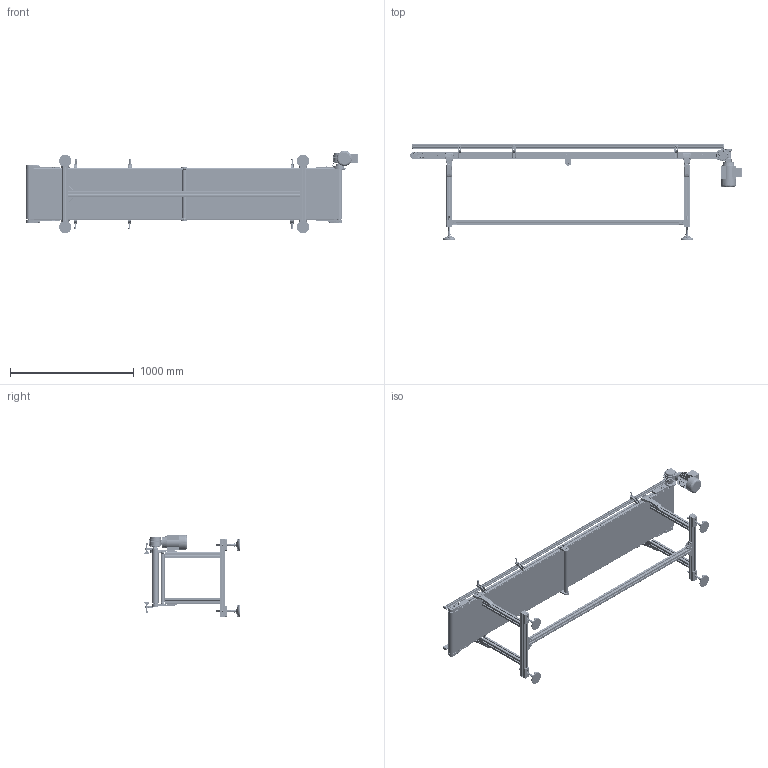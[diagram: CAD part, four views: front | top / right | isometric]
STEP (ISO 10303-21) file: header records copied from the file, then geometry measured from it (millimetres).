
FILE_DESCRIPTION (( 'STEP AP203' ), '1' );
FILE_NAME ('NASTRO_RETTILINEO_TAPPETO.step', '2026-06-02T19:54:11', ( 'Utente Windows' ), ( '' ), 'SwSTEP 2.0', 'SolidWorks 2024', '' );
FILE_SCHEMA (( 'CONFIG_CONTROL_DESIGN' ));
Length unit declared in the file: millimetre
Products named in the file (79): 084.802.065_Default<A macchina>; 084.201.012; 2010.000.069; 084.201.012-1; 084.802.062; VITI TSEI UNI 5933_M5x12 UNI 5933; RULLO_50_TRAINO_CINGHIE_44_DX; 0820ISO2342; NASTRO_RETTILINEO_TAPPETO; 084.802.034_084.802.034; BLOCCO_PERNO_50_RINVIO; BLOCCO_REGGITAPPETO; BLOCCO_BRACCIO_CH04P_V2_VF44P V2; VITE_RONDELLA_M8X20; VITI TE UNI 5739_M6x16 UNI 5739; 084.802.071; 084.711.006_PER CAVA 8 PERNO ALTO 1; 084.803.018; 084.712.002; RONDELLE UNI 6592_8.4x17 UNI 6592; TAPPETO_STANDARD_CINGHIE; RULLO_50_RINVIO_CINGHIE; VITI TCEI UNI 5931_M6x12 UNI 5931; 084.802.008; 084.402.005; 084.301.000 VITI ALUSIC_084.301.009; VITI TCEI UNI 5931_M4x25 UNI 5931; 084.711.007; 084.802.060_Default<A macchina>; 084.711.010; BLOCCO_RINVIO_50_STANDARD; 084.807.001_084.807.001; GAMBE_D50_Default<A macchina>; 084.303.001; SPONDA_Default<A macchina>; 084.301.000 VITI ALUSIC_084.301.003; 084.802.028; 084.802.017_084.802.017; 084.302.000 DADI ALUSIC 13x13-1_084.302.004; 2010.000.070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
Assembly tree (191 placements, depth 4):
  NASTRO_RETTILINEO_TAPPETO
    TAPPETO_STANDARD_CINGHIE
    TELAIO_50_CINGHIE_Default<A macchina>
    LAMIERA_STANDARD  x2
    RULLO_50_TRAINO_CINGHIE_44_DX
    BLOCCO_PERNO_50_30
      084.810.001
      084.811.001
      RONDELLE FASCIA LARGA UNI 6593_5.4x20 UNI 6593
      084.301.000 VITI ALUSIC_084.301.009
      CHIAVETTE_A 5x5x40 UNI 6604-69
      CHIAVETTE_A 5x5x20 UNI 6604-69
      14UNI7435
    BLOCCO_TRAINO_50_STANDARD_44_DX
      084.807.001_084.807.001
      084.802.034_084.802.034
      084.301.000 VITI ALUSIC_084.301.003  x2
      084.302.000 DADI ALUSIC 13x13-1_084.302.004  x2
      BLOCCO_BRACCIO_CH04P_V2_VF44P V2
        084.808.012
        084.802.062
        0820ISO2342
        084.803.018
        VITI TCEI UNI 5931_M6x12 UNI 5931  x4
        VITI TE UNI 5739_M6x16 UNI 5739  x4
        084.802.060_Default<A macchina>
      084.802.065_Default<A macchina>
      VITI TCEI UNI 5931_M4x25 UNI 5931  x2
    BLOCCO_PERNO_50_RINVIO
      084.811.004
      084.810.001
    BLOCCO_TRAINO_50_STANDARD
      084.807.002_084.807.002
      084.802.017_084.802.017
      084.301.000 VITI ALUSIC_084.301.003  x2
      084.302.000 DADI ALUSIC 13x13-1_084.302.004  x2
      084.802.071
      VITI TSEI UNI 5933 INOX_0412UNI5933A2  x2
    RULLO_50_RINVIO_CINGHIE
    BLOCCO_RINVIO_50_STANDARD  x2
      084.807.002_084.807.002
      084.802.017_084.802.017
      084.802.008
      084.301.000 VITI ALUSIC_084.301.003
      084.302.000 DADI ALUSIC 13x13_084.302.004
      VITI TSEI UNI 5933_M4x10 UNI 5933
      084.802.071
    SPONDA_Default<A macchina>  x2
    084.711.006_PER CAVA 8 PERNO ALTO 1  x6
      084.711.006_L1
      084.711.006_L2
      084.711.007
      084.711.005
      084.711.010
      DADI ESAGONALI NORMALI UNI 5588_M6 UNI 5588
    084.712.002  x4
    GAMBE_D50_Default<A macchina>  x2
    FLANGIA_GAMBA_50
      084.302.000 DADI ALUSIC 13x13-1_084.302.004  x4
      RONDELLE UNI 6592_8.4x17 UNI 6592  x3
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Bounding box: 2681.6 x 772.1 x 666.44 mm (x, y, z)
Volume: 24316163.4 mm3; surface area: 15186042 mm2
Topology: 352 solids, 363 shells, 17864 faces, 46192 edges, 29280 vertices
Faces by surface type: plane 7586, cylinder 5468, bspline 1869, cone 1518, torus 1227, sphere 196
Entity records: 269083 total; most frequent: CARTESIAN_POINT 91322, ORIENTED_EDGE 36344, DIRECTION 33228, EDGE_CURVE 18172, VERTEX_POINT 11666, AXIS2_PLACEMENT_3D 11660, VECTOR 9908, LINE 9908
